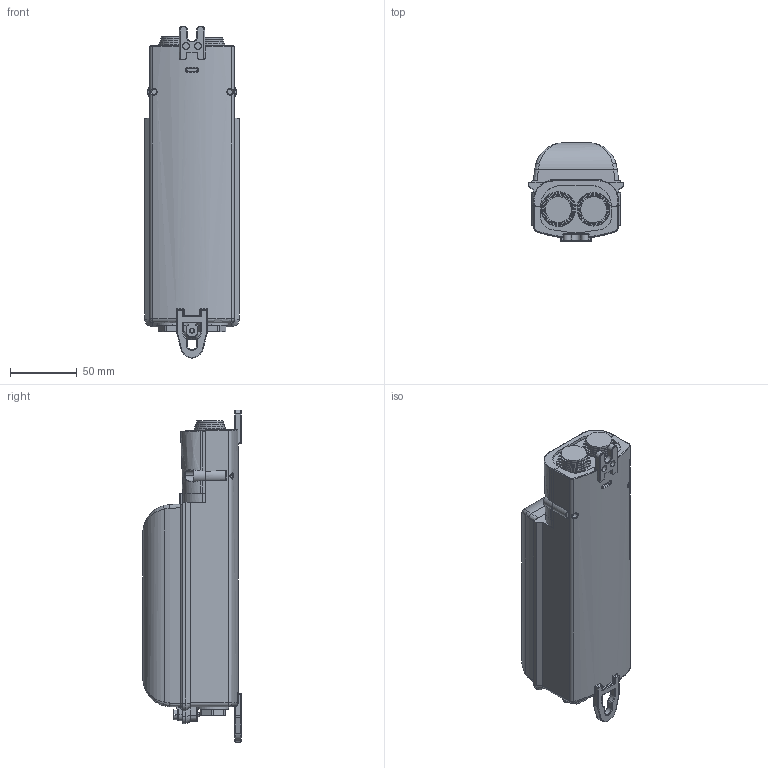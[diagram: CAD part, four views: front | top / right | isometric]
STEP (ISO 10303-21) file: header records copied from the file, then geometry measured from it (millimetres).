
FILE_DESCRIPTION((''),'2;1');
FILE_NAME('55555','2018-08-31T',('Gisse'),('MENNEKES'),'PRO/ENGINEER BY PARAMETRIC TECHNOLOGY CORPORATION, 2015440','PRO/ENGINEER BY PARAMETRIC TECHNOLOGY CORPORATION, 2015440','');
FILE_SCHEMA(('AUTOMOTIVE_DESIGN { 1 0 10303 214 1 1 1 1 }'));
Length unit declared in the file: millimetre
Products named in the file (1): 55555
Bounding box: 70.9 x 73.9 x 249.5 mm (x, y, z)
Volume: 792799.8 mm3; surface area: 62373.8 mm2
Topology: 1 solids, 1 shells, 617 faces, 1562 edges, 968 vertices
Faces by surface type: plane 220, cylinder 199, bspline 85, torus 64, cone 37, sphere 12
Entity records: 29517 total; most frequent: CARTESIAN_POINT 9540, ORIENTED_EDGE 3112, DIRECTION 2854, EDGE_CURVE 1556, AXIS2_PLACEMENT_3D 1077, VERTEX_POINT 968, FILL_AREA_STYLE_COLOUR 814, FILL_AREA_STYLE 814
